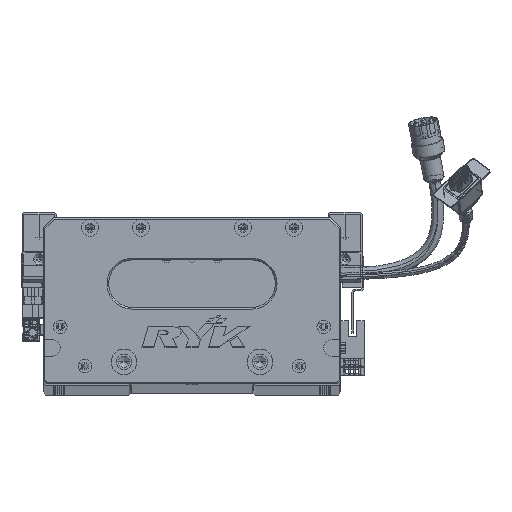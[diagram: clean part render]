
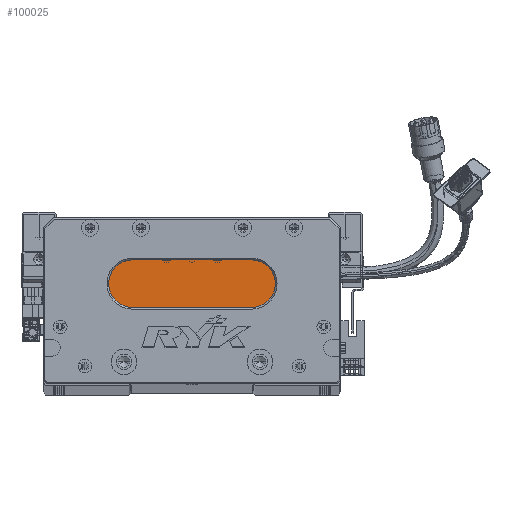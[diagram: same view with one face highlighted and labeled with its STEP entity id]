
A CAD part, top view. The second image highlights one B-rep face of the part: STEP entity #100025.
In plain terms, the highlighted planar face has unit normal (0, 0, 1) as drawn and (0, 0, -1) by its records, which use the part's own axes.
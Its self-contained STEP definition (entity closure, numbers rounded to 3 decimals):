
#468 = EDGE_CURVE ( 'NONE', #44971, #68045, #98805, .T. ) ;
#4062 = ORIENTED_EDGE ( 'NONE', *, *, #19395, .T. ) ;
#4397 = CIRCLE ( 'NONE', #89354, 14. ) ;
#5627 = EDGE_CURVE ( 'NONE', #31921, #57185, #20189, .T. ) ;
#6383 = CARTESIAN_POINT ( 'NONE',  ( 52.5, 73., 18. ) ) ;
#6922 = CARTESIAN_POINT ( 'NONE',  ( 52.5, 45., 18. ) ) ;
#17090 = CARTESIAN_POINT ( 'NONE',  ( 122.5, 73., 18. ) ) ;
#18309 = CARTESIAN_POINT ( 'NONE',  ( 122.5, 59., 18. ) ) ;
#19395 = EDGE_CURVE ( 'NONE', #121264, #31921, #95131, .T. ) ;
#19635 = CARTESIAN_POINT ( 'NONE',  ( 122.5, 59., 18. ) ) ;
#20189 = CIRCLE ( 'NONE', #60286, 14. ) ;
#20556 = DIRECTION ( 'NONE',  ( -1., 0., 0. ) ) ;
#29026 = ORIENTED_EDGE ( 'NONE', *, *, #5627, .T. ) ;
#29228 = DIRECTION ( 'NONE',  ( 0., 0., -1. ) ) ;
#29658 = DIRECTION ( 'NONE',  ( 0., 0., -1. ) ) ;
#31921 = VERTEX_POINT ( 'NONE', #6922 ) ;
#38340 = DIRECTION ( 'NONE',  ( -1., 0., 0. ) ) ;
#38617 = ORIENTED_EDGE ( 'NONE', *, *, #468, .T. ) ;
#42323 = DIRECTION ( 'NONE',  ( -1., 0., 0. ) ) ;
#44971 = VERTEX_POINT ( 'NONE', #6383 ) ;
#55938 = AXIS2_PLACEMENT_3D ( 'NONE', #18309, #129324, #42323 ) ;
#57185 = VERTEX_POINT ( 'NONE', #93261 ) ;
#60286 = AXIS2_PLACEMENT_3D ( 'NONE', #94115, #29228, #38340 ) ;
#68045 = VERTEX_POINT ( 'NONE', #134097 ) ;
#73442 = CARTESIAN_POINT ( 'NONE',  ( 52.5, 59., 18. ) ) ;
#74381 = DIRECTION ( 'NONE',  ( -1., 0., 0. ) ) ;
#86457 = DIRECTION ( 'NONE',  ( -1., 0., 0. ) ) ;
#87277 = AXIS2_PLACEMENT_3D ( 'NONE', #73442, #29658, #74381 ) ;
#89354 = AXIS2_PLACEMENT_3D ( 'NONE', #19635, #96521, #20556 ) ;
#93023 = DIRECTION ( 'NONE',  ( 1., 0., 0. ) ) ;
#93261 = CARTESIAN_POINT ( 'NONE',  ( 38.5, 59., 18. ) ) ;
#94115 = CARTESIAN_POINT ( 'NONE',  ( 52.5, 59., 18. ) ) ;
#94159 = EDGE_LOOP ( 'NONE', ( #122500, #4062, #29026, #129414, #38617 ) ) ;
#95131 = LINE ( 'NONE', #141703, #139788 ) ;
#96521 = DIRECTION ( 'NONE',  ( 0., 0., -1. ) ) ;
#98805 = LINE ( 'NONE', #17090, #119452 ) ;
#100025 = ADVANCED_FACE ( 'NONE', ( #110341 ), #116354, .T. ) ;
#102863 = CARTESIAN_POINT ( 'NONE',  ( 122.5, 45., 18. ) ) ;
#110341 = FACE_OUTER_BOUND ( 'NONE', #94159, .T. ) ;
#116354 = PLANE ( 'NONE',  #55938 ) ;
#119452 = VECTOR ( 'NONE', #93023, 1000. ) ;
#121264 = VERTEX_POINT ( 'NONE', #102863 ) ;
#122500 = ORIENTED_EDGE ( 'NONE', *, *, #128469, .T. ) ;
#125936 = CIRCLE ( 'NONE', #87277, 14. ) ;
#128469 = EDGE_CURVE ( 'NONE', #68045, #121264, #4397, .T. ) ;
#129324 = DIRECTION ( 'NONE',  ( 0., 0., -1. ) ) ;
#129414 = ORIENTED_EDGE ( 'NONE', *, *, #135342, .T. ) ;
#134097 = CARTESIAN_POINT ( 'NONE',  ( 122.5, 73., 18. ) ) ;
#135342 = EDGE_CURVE ( 'NONE', #57185, #44971, #125936, .T. ) ;
#139788 = VECTOR ( 'NONE', #86457, 1000. ) ;
#141703 = CARTESIAN_POINT ( 'NONE',  ( 122.5, 45., 18. ) ) ;
